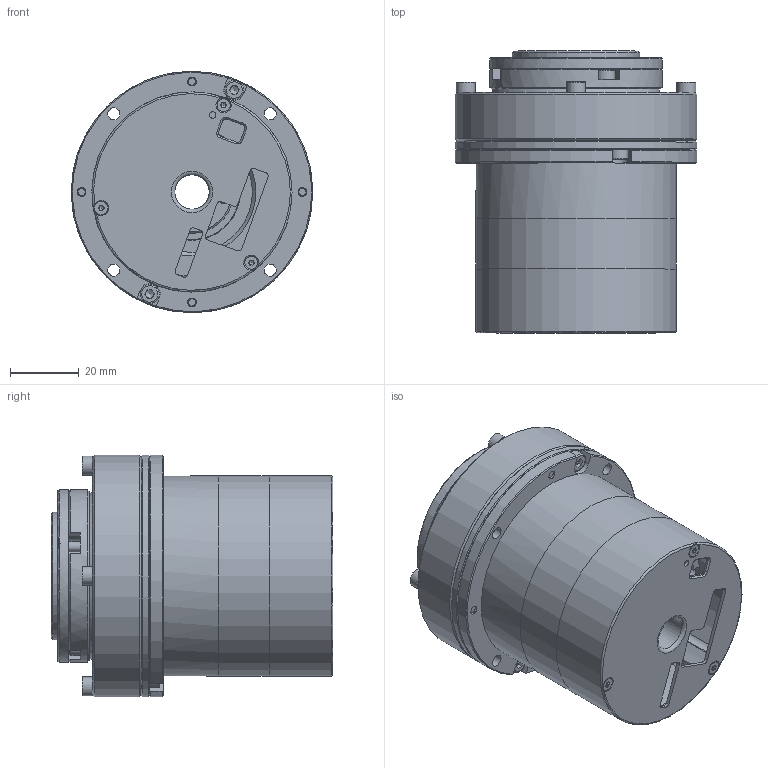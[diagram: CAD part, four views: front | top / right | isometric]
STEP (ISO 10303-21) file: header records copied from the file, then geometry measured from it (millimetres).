
FILE_DESCRIPTION (( 'STEP AP203' ), '1' );
FILE_NAME ('RH-14-100-E-N-D.STEP', '2026-01-08T09:18:05', ( '' ), ( '' ), 'SwSTEP 2.0', 'SolidWorks 2020', '' );
FILE_SCHEMA (( 'CONFIG_CONTROL_DESIGN' ));
Length unit declared in the file: millimetre
Products named in the file (9): 8MT.013.059（RH-14 驱动器盖-ECAT）; WHS-14-XX-I_Default<偌樓馱>; GB╱T 2673.1-2018[内六角花形沉头螺钉M2-M4M2×16]_M2×16; GB╱T 2673.1-2018[内六角花形沉头螺钉M2-M4M3×12]_M3×12; 8MT.013.046（RH-14 减速机密封盖-双编）_Default<按加工>; GB╱T 70.1-2008[内六角圆柱头螺钉M3×20]_M3×20; RH-14-100-E-N-D; 8MT.034.001（RH-14 机座）; 8MT.013.001（RH-14 端盖）
Assembly tree (14 placements, depth 2):
  RH-14-100-E-N-D
    8MT.034.001（RH-14 机座）
    8MT.013.059（RH-14 驱动器盖-ECAT）
    8MT.013.001（RH-14 端盖）
    8MT.013.046（RH-14 减速机密封盖-双编）_Default<按加工>
    WHS-14-XX-I_Default<偌樓馱>
    GB╱T 70.1-2008[内六角圆柱头螺钉M3×20]_M3×20  x4
    GB╱T 2673.1-2018[内六角花形沉头螺钉M2-M4M2×16]_M2×16  x3
    GB╱T 2673.1-2018[内六角花形沉头螺钉M2-M4M3×12]_M3×12  x2
Bounding box: 70 x 81.7 x 70 mm (x, y, z)
Volume: 104484.9 mm3; surface area: 94029.2 mm2
Topology: 32 solids, 32 shells, 900 faces, 2306 edges, 1484 vertices
Faces by surface type: cylinder 371, plane 291, cone 184, torus 32, bspline 22
Full cylindrical faces by diameter (mm): 1.6 x16, 1.742 x3, 1.9 x1, 2 x4, 2.05 x2, 2.2 x4, 2.4 x10, 2.5 x26, 2.677 x2, 3 x10, 3.4 x10, 3.5 x36, 3.8 x4, 4.3 x15, 4.4 x2, 5.5 x10, 10 x2, 12 x2, 12.5 x1, 12.7 x1, 24 x2, 25.07 x2, 27.47 x1, 27.6 x2, 28 x2, 30.5 x1, 31.4 x2, 31.496 x1, 32 x1, 33.896 x1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
Entity records: 24393 total; most frequent: CARTESIAN_POINT 5656, DIRECTION 3838, ORIENTED_EDGE 3082, AXIS2_PLACEMENT_3D 1671, EDGE_CURVE 1541, EDGE_LOOP 1356, VERTEX_POINT 1171, FACE_OUTER_BOUND 1015
